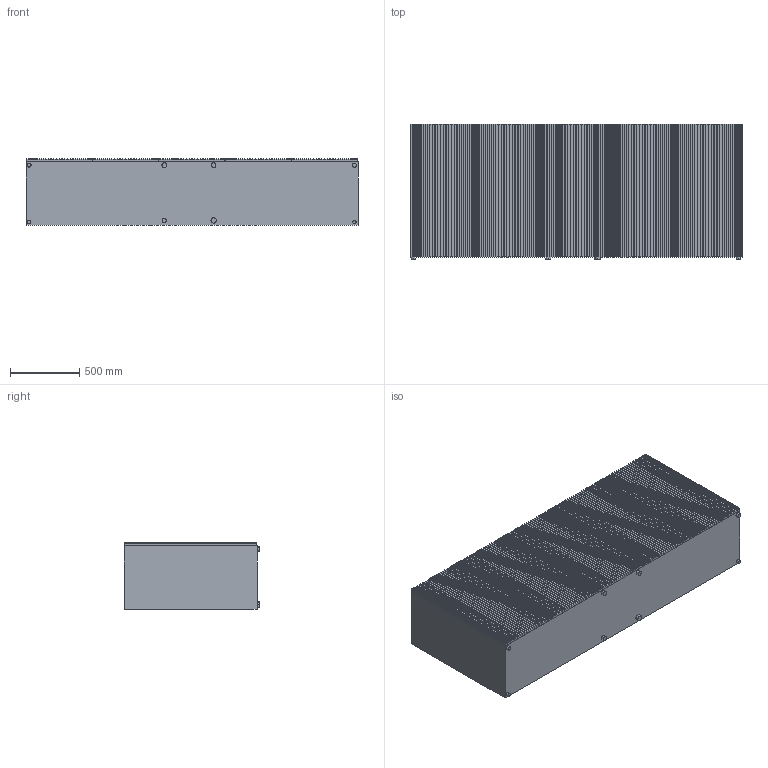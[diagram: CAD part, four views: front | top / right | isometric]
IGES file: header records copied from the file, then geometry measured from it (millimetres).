
Start section: SolidWorks IGES file using analytic representation for surfaces
Global section: file name: C:\Users\Matteo\Desktop\_Horm\_carlos\_collezione carlos\_IGS CARLOS\CARLOS cm 240X49X98H.IGS; native system: SolidWorks 2010; preprocessor: SolidWorks 2010; author: Matteo; date: 160224.162236; units: millimetre
Bounding box: 2400 x 980 x 484 mm (x, y, z)
Surface area: 17608215.9 mm2 (no closed solid volume)
Topology: 0 solids, 0 shells, 1610 faces, 8352 edges, 8352 vertices
Faces by surface type: bspline 1594, revolution 16
